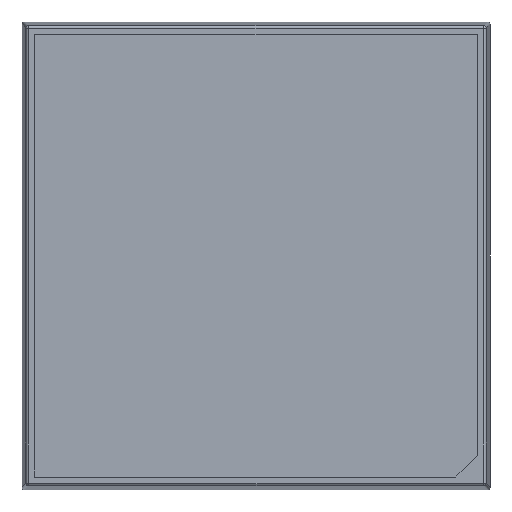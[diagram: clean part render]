
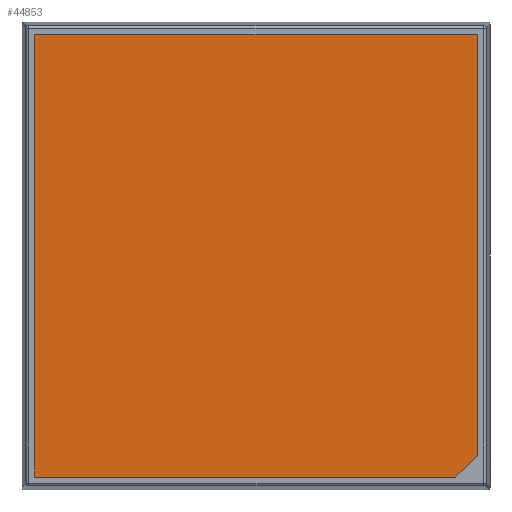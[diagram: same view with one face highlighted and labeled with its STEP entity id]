
A CAD part, top view. The second image highlights one B-rep face of the part: STEP entity #44853.
In plain terms, the highlighted planar face has unit normal (0, 0, 1) as drawn and (0, -1, 0) by its records, which use the part's own axes.
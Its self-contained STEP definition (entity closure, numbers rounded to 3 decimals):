
#7 = EDGE_CURVE ( 'NONE', #30970, #34798, #67867, .T. ) ;
#4238 = CARTESIAN_POINT ( 'NONE',  ( -25.72, 0.2, 25.72 ) ) ;
#4488 = DIRECTION ( 'NONE',  ( 0., 0., 1. ) ) ;
#5600 = CARTESIAN_POINT ( 'NONE',  ( -25.72, 0.2, 25.72 ) ) ;
#5975 = LINE ( 'NONE', #5600, #32342 ) ;
#6747 = DIRECTION ( 'NONE',  ( -1., 0., 0. ) ) ;
#6867 = EDGE_CURVE ( 'NONE', #53412, #30970, #10525, .T. ) ;
#10525 = LINE ( 'NONE', #75417, #46155 ) ;
#14610 = CARTESIAN_POINT ( 'NONE',  ( 25.72, 0.2, -23.22 ) ) ;
#14645 = VECTOR ( 'NONE', #4488, 1000. ) ;
#16567 = VERTEX_POINT ( 'NONE', #4238 ) ;
#16926 = DIRECTION ( 'NONE',  ( 0., 0., 1. ) ) ;
#17470 = ORIENTED_EDGE ( 'NONE', *, *, #18404, .T. ) ;
#17669 = DIRECTION ( 'NONE',  ( 0., 1., 0. ) ) ;
#18132 = CARTESIAN_POINT ( 'NONE',  ( -25.72, 0.2, -25.72 ) ) ;
#18404 = EDGE_CURVE ( 'NONE', #16567, #52207, #29797, .T. ) ;
#22579 = EDGE_CURVE ( 'NONE', #34798, #16567, #5975, .T. ) ;
#24440 = EDGE_CURVE ( 'NONE', #52207, #53412, #51066, .T. ) ;
#24680 = EDGE_LOOP ( 'NONE', ( #68000, #73146, #17470, #29546, #25979 ) ) ;
#25979 = ORIENTED_EDGE ( 'NONE', *, *, #6867, .T. ) ;
#29546 = ORIENTED_EDGE ( 'NONE', *, *, #24440, .T. ) ;
#29797 = LINE ( 'NONE', #18132, #37708 ) ;
#30565 = DIRECTION ( 'NONE',  ( 0., 0., -1. ) ) ;
#30970 = VERTEX_POINT ( 'NONE', #43486 ) ;
#32342 = VECTOR ( 'NONE', #6747, 1000. ) ;
#34798 = VERTEX_POINT ( 'NONE', #37059 ) ;
#37059 = CARTESIAN_POINT ( 'NONE',  ( 25.72, 0.2, 25.72 ) ) ;
#37708 = VECTOR ( 'NONE', #30565, 1000. ) ;
#39417 = DIRECTION ( 'NONE',  ( 1., 0., 0. ) ) ;
#40435 = DIRECTION ( 'NONE',  ( 0.707, 0., 0.707 ) ) ;
#43486 = CARTESIAN_POINT ( 'NONE',  ( 25.72, 0.2, -23.22 ) ) ;
#44461 = CARTESIAN_POINT ( 'NONE',  ( -25.72, 0.2, -25.72 ) ) ;
#44853 = ADVANCED_FACE ( 'NONE', ( #70531 ), #69769, .F. ) ;
#46155 = VECTOR ( 'NONE', #40435, 1000. ) ;
#51066 = LINE ( 'NONE', #44461, #68328 ) ;
#52207 = VERTEX_POINT ( 'NONE', #57827 ) ;
#53412 = VERTEX_POINT ( 'NONE', #59740 ) ;
#57827 = CARTESIAN_POINT ( 'NONE',  ( -25.72, 0.2, -25.72 ) ) ;
#59740 = CARTESIAN_POINT ( 'NONE',  ( 23.22, 0.2, -25.72 ) ) ;
#64692 = CARTESIAN_POINT ( 'NONE',  ( 25.72, 0.2, 25.72 ) ) ;
#67715 = AXIS2_PLACEMENT_3D ( 'NONE', #64692, #17669, #16926 ) ;
#67867 = LINE ( 'NONE', #14610, #14645 ) ;
#68000 = ORIENTED_EDGE ( 'NONE', *, *, #7, .T. ) ;
#68328 = VECTOR ( 'NONE', #39417, 1000. ) ;
#69769 = PLANE ( 'NONE',  #67715 ) ;
#70531 = FACE_OUTER_BOUND ( 'NONE', #24680, .T. ) ;
#73146 = ORIENTED_EDGE ( 'NONE', *, *, #22579, .T. ) ;
#75417 = CARTESIAN_POINT ( 'NONE',  ( 25.72, 0.2, -23.22 ) ) ;
